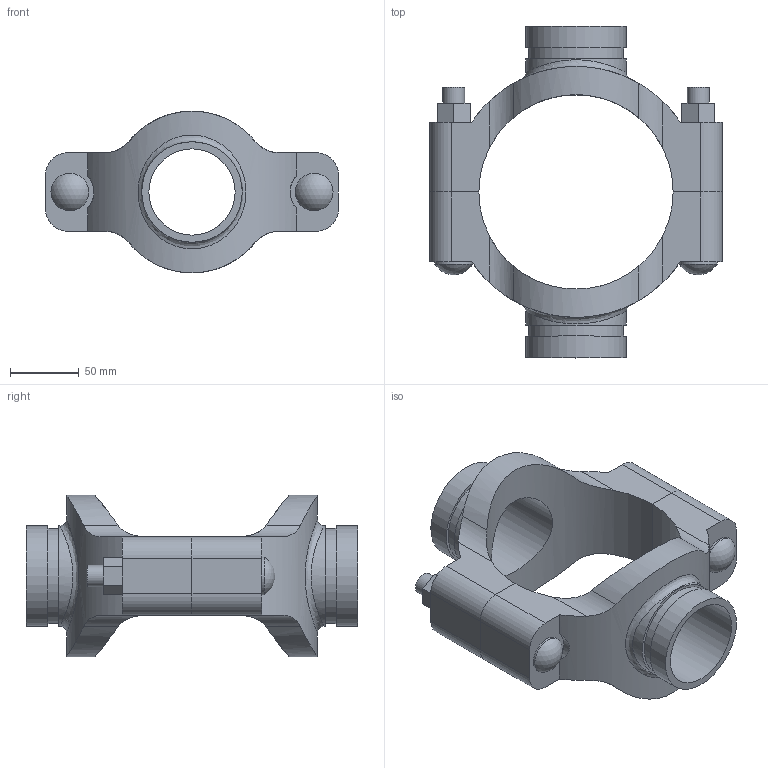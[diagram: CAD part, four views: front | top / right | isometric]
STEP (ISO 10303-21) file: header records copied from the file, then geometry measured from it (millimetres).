
FILE_DESCRIPTION(/* description */ ('VIC MECH-T BRANCH OUTLET CROSS STYLE 920N (GRVD)','CAx-IF Rec.Pracs.---Representation and Presentation of Product Manufacturing Information (PMI)---4.0---2014-10-13'),/* implementation_level */ '2;1');
FILE_NAME(/* name */ 'C:\Users\Vjadhav\AppData\Roaming\Autodesk\ApplicationPlugins\Back Up\Victaulic_IPS_Mechanical-Cross Outlet_Style 920N (OGS)\Victaulic_IPS_Mechanical-Cross Outlet_05.0x02.5x02.5 (125x65x65).stp',/* time_stamp */ '2020-08-06T19:44:24+05:00',/* author */ ('Vjadhav'),/* organization */ ('Victaulic'),/* preprocessor_version */ 'ST-DEVELOPER v17.2',/* originating_system */ 'Autodesk Inventor 2019',/* authorisation */ '');
FILE_SCHEMA (('AP242_MANAGED_MODEL_BASED_3D_ENGINEERING_MIM_LF { 1 0 10303 442 1 1 4 }'));
Length unit declared in the file: inch
Products named in the file (3): 920NG-05.0x02.5x02.5; 920G-05.0x02.5; 920G-05.0x02.5_1
Assembly tree (2 placements, depth 2):
  920NG-05.0x02.5x02.5
    920G-05.0x02.5
    920G-05.0x02.5_1
Bounding box: 212.85 x 241.3 x 117.56 mm (x, y, z)
Volume: 939960 mm3; surface area: 171330.9 mm2
Topology: 2 solids, 2 shells, 108 faces, 274 edges, 186 vertices
Faces by surface type: plane 54, cylinder 50, sphere 2, bspline 2
Full cylindrical faces by diameter (mm): 15.875 x4, 27.381 x2, 62.738 x2, 69.088 x2, 73.025 x4
Entity records: 4374 total; most frequent: CARTESIAN_POINT 1493, DIRECTION 552, ORIENTED_EDGE 548, EDGE_CURVE 274, AXIS2_PLACEMENT_3D 201, VERTEX_POINT 186, LINE 150, VECTOR 150
